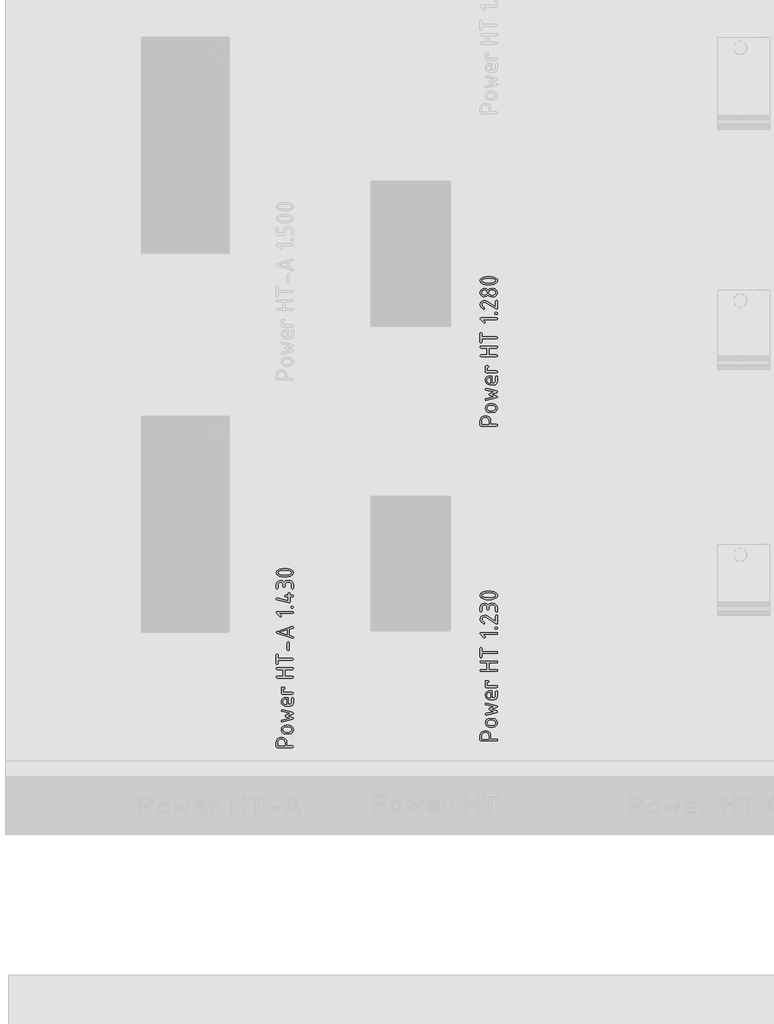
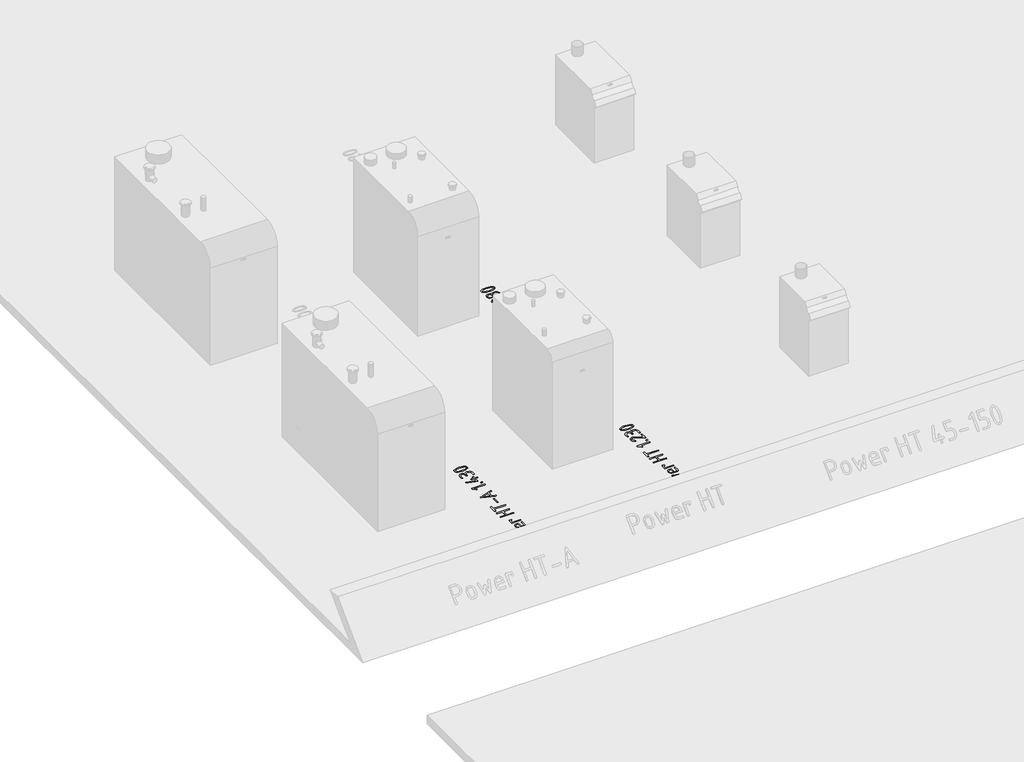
# One storey, part 14 of 37: 3 proxies.
"""IFC4 building model written with IfcOpenShell, lengths in millimetres."""

from ifc_helpers import new_model, si_unit, frame, origin, place, context, project, spatial, polyline, outline, extrude, element, save

model = new_model("IFC4")

# Units and contexts
model_context = context("Model", 3, world=origin())
ifc_project = project(units=[si_unit("LENGTHUNIT", "METRE", prefix="MILLI")], contexts=[model_context])

# Site, building, storey
site = spatial("IfcSite", under=ifc_project)
building = spatial("IfcBuilding", under=site)
storey = spatial("IfcBuildingStorey", under=building, Name="01_Стартовый вид_Площадка", Elevation=0.0)

# Proxies
placement = place(None, origin())
element("IfcBuildingElementProxy", 1, Name="150 мм", ObjectType="150 мм", at=placement, inside=storey, context=model_context, shape_type="SweptSolid", body=[
    extrude(outline(polyline([(1900.1180392, -4461.4879056), (1900.1180392, -4424.2130608), (1903.4739738, -4406.9589627), (1913.5417775, -4392.5114646), (1928.4037735, -4382.728316), (1946.1422848, -4379.4672665), (1964.6798282, -4382.5585217), (1979.3820177, -4391.8322874), (1988.9704022, -4406.0500637), (1992.1665304, -4423.9733512), (1992.1665304, -4453.61744), (2043.6241939, -4453.61744), (2049.137515, -4455.5351169), (2050.9752887, -4461.2881476), (2049.0875755, -4467.0411783), (2043.4244359, -4468.9588552), (1907.668892, -4468.9588552), (1902.0057524, -4467.0911178), (1900.1180392, -4461.4879056)]), holes=[polyline([(1915.4594544, -4453.61744), (1976.8251152, -4453.61744), (1976.8251152, -4424.2130608), (1974.6028073, -4412.8218603), (1967.9358837, -4403.3383487), (1958.0428683, -4396.9410985), (1946.1422848, -4394.8086817), (1934.2417013, -4396.9410985), (1924.3486859, -4403.3383487), (1917.6817623, -4412.8218603), (1915.4594544, -4424.2130608), (1915.4594544, -4453.61744)])]), frame((0.0, 0.0, -10.0), z_axis=(0.0, 0.0, 1.0), x_axis=(1.0, 0.0, 0.0)), (0.0, 0.0, 1.0), 10.0),
    extrude(outline(polyline([(2013.5406375, -4348.7844361), (1983.5769359, -4348.7844361), (1969.1843713, -4346.0727211), (1957.0890238, -4337.9375761), (1948.8789695, -4325.9570895), (1946.1422848, -4311.7093494), (1948.8490058, -4297.3117908), (1956.969169, -4285.3612678), (1969.0345528, -4277.3160139), (1983.5769359, -4274.6342627), (2013.5406375, -4274.6342627), (2027.9332022, -4277.3459777), (2040.0285497, -4285.4811226), (2048.2386039, -4297.4616093), (2050.9752887, -4311.7093494), (2048.2386039, -4325.9570895), (2040.0285497, -4337.9375761), (2027.9332022, -4346.0727211), (2013.5406375, -4348.7844361)]), holes=[polyline([(2013.1011699, -4289.9756779), (1983.0975167, -4289.9756779), (1974.4679707, -4291.568748), (1967.1967791, -4296.3479584), (1962.2527683, -4303.3744464), (1960.6047648, -4311.7093494), (1962.2527683, -4320.0442524), (1967.1967791, -4327.0707404), (1974.4679707, -4331.8499508), (1983.0975167, -4333.4430209), (2013.1011699, -4333.4430209), (2021.8106191, -4331.8649326), (2029.0818107, -4327.1306678), (2033.9958578, -4320.1191616), (2035.6338735, -4311.7093494), (2033.9858699, -4303.3744464), (2029.0418591, -4296.3479584), (2021.7606796, -4291.568748), (2013.1011699, -4289.9756779)])]), frame((0.0, 0.0, -10.0), z_axis=(0.0, 0.0, 1.0), x_axis=(1.0, 0.0, 0.0)), (0.0, 0.0, 1.0), 10.0),
    extrude(outline(polyline([(2050.9752887, -4169.281888), (2045.5418708, -4176.5530796), (2004.7912367, -4191.77464), (2045.3021612, -4207.0361519), (2050.9752887, -4214.3073435), (2049.2174182, -4219.1614632), (2043.9438067, -4221.8981479), (1955.4510081, -4244.0712871), (1953.2936216, -4244.3109967), (1947.930119, -4242.4332714), (1946.1422848, -4236.8000955), (1947.5605667, -4232.025879), (1951.8154123, -4229.5289039), (2018.1750233, -4212.9090375), (1980.9001786, -4198.9659283), (1976.0260832, -4191.77464), (1980.9001786, -4184.743158), (2018.2948782, -4170.7600973), (1951.8154123, -4154.0603276), (1947.5605667, -4151.5034251), (1946.1422848, -4146.789136), (1948.2397439, -4141.5554761), (1953.2936216, -4139.2782348), (1955.4510081, -4139.5179444), (2044.3832743, -4161.7709868), (2049.3272851, -4164.4477441), (2050.9752887, -4169.281888)])), frame((0.0, 0.0, -10.0), z_axis=(0.0, 0.0, 1.0), x_axis=(1.0, 0.0, 0.0)), (0.0, 0.0, 1.0), 10.0),
    extrude(outline(polyline([(2004.9510431, -4093.0941828), (2020.2924583, -4093.0941828), (2031.0993666, -4088.659555), (2035.6338735, -4078.112332), (2035.6338735, -4040.5977777), (2037.5515504, -4034.9646018), (2043.3045811, -4033.0868765), (2049.0576118, -4034.9646018), (2050.9752887, -4040.5977777), (2050.9752887, -4078.112332), (2048.8079142, -4089.7682119), (2042.305791, -4099.5663424), (2032.6474912, -4106.2182841), (2021.0115871, -4108.435598), (1983.5769359, -4108.435598), (1969.1843713, -4105.6539677), (1957.0890238, -4097.3090768), (1948.8789695, -4085.0689048), (1946.1422848, -4070.6014309), (1948.7990663, -4056.02409), (1956.769411, -4043.9337365), (1968.615061, -4035.7985915), (1982.8977587, -4033.0868765), (2004.9510431, -4033.0868765), (2004.9510431, -4093.0941828)]), holes=[polyline([(1959.6059747, -4070.6014309), (1961.2539783, -4079.2309769), (1966.197989, -4086.5021685), (1973.4691806, -4091.4461792), (1982.0987267, -4093.0941828), (1989.6096279, -4093.0941828), (1989.6096279, -4048.1086789), (1982.0987267, -4048.1086789), (1973.4691806, -4049.7566825), (1966.197989, -4054.7006932), (1961.2539783, -4061.9718848), (1959.6059747, -4070.6014309)])]), frame((0.0, 0.0, -10.0), z_axis=(0.0, 0.0, 1.0), x_axis=(1.0, 0.0, 0.0)), (0.0, 0.0, 1.0), 10.0),
    extrude(outline(polyline([(1953.6132344, -4003.6025942), (1948.0100222, -4001.6849173), (1946.1422848, -3995.9318866), (1946.1422848, -3950.7466246), (1948.0599617, -3945.1434124), (1953.8129924, -3943.275675), (1968.9946012, -3943.275675), (1974.6277771, -3945.1434124), (1976.5055024, -3950.7466246), (1974.6277771, -3956.3798005), (1968.9946012, -3958.2575258), (1961.4837, -3958.2575258), (1961.4837, -3988.261179), (2043.5043391, -3988.261179), (2049.1075513, -3990.1788559), (2050.9752887, -3995.9318866), (2049.1075513, -4001.6849173), (2043.5043391, -4003.6025942), (1953.6132344, -4003.6025942)])), frame((0.0, 0.0, -10.0), z_axis=(0.0, 0.0, 1.0), x_axis=(1.0, 0.0, 0.0)), (0.0, 0.0, 1.0), 10.0),
    extrude(outline(polyline([(2043.4244359, -3862.9729549), (1907.668892, -3862.9729549), (1902.0057524, -3861.055278), (1900.1180392, -3855.3022473), (1902.0357161, -3849.5492166), (1907.7887468, -3847.6315397), (1961.4837, -3847.6315397), (1961.4837, -3788.8227814), (1907.7887468, -3788.8227814), (1902.0357161, -3786.9051045), (1900.1180392, -3781.1520738), (1902.0057524, -3775.3990431), (1907.668892, -3773.4813662), (2043.4244359, -3773.4813662), (2049.0875755, -3775.3990431), (2050.9752887, -3781.1520738), (2049.1175392, -3786.9051045), (2043.5442907, -3788.8227814), (1976.8251152, -3788.8227814), (1976.8251152, -3847.6315397), (2043.5442907, -3847.6315397), (2049.1175392, -3849.5492166), (2050.9752887, -3855.3022473), (2049.0875755, -3861.055278), (2043.4244359, -3862.9729549)])), frame((0.0, 0.0, -10.0), z_axis=(0.0, 0.0, 1.0), x_axis=(1.0, 0.0, 0.0)), (0.0, 0.0, 1.0), 10.0),
    extrude(outline(polyline([(1907.7887468, -3744.5164547), (1902.0357161, -3742.6387294), (1900.1180392, -3737.0055535), (1900.1180392, -3661.656832), (1902.0357161, -3656.0536198), (1907.7887468, -3654.1858824), (1913.5417775, -3656.0536198), (1915.4594544, -3661.656832), (1915.4594544, -3691.6604852), (2043.4643875, -3691.6604852), (2049.0975634, -3693.5781621), (2050.9752887, -3699.3311928), (2049.0975634, -3705.0842235), (2043.4643875, -3707.0019004), (1915.4594544, -3707.0019004), (1915.4594544, -3737.0055535), (1913.5417775, -3742.6387294), (1907.7887468, -3744.5164547)])), frame((0.0, 0.0, -10.0), z_axis=(0.0, 0.0, 1.0), x_axis=(1.0, 0.0, 0.0)), (0.0, 0.0, 1.0), 10.0),
    extrude(outline(polyline([(1925.8468709, -3540.8032357), (1943.1459146, -3558.0623278), (1945.3033012, -3563.2959877), (1943.4255759, -3568.9291636), (1937.7924, -3570.8068889), (1932.5587401, -3568.6095508), (1903.0744578, -3539.2850748), (1900.1180392, -3533.1325281), (1902.0057524, -3527.3794974), (1907.668892, -3525.4618205), (2043.4244359, -3525.4618205), (2049.0875755, -3527.3794974), (2050.9752887, -3533.1325281), (2049.0875755, -3538.8855588), (2043.4244359, -3540.8032357), (1925.8468709, -3540.8032357)])), frame((0.0, 0.0, -10.0), z_axis=(0.0, 0.0, 1.0), x_axis=(1.0, 0.0, 0.0)), (0.0, 0.0, 1.0), 10.0),
    extrude(outline(polyline([(2035.6338735, -3494.7789901), (2029.8808428, -3492.8613132), (2027.9631659, -3487.1082825), (2029.8808428, -3481.3552518), (2035.6338735, -3479.4375749), (2043.3045811, -3479.4375749), (2049.0576118, -3481.3552518), (2050.9752887, -3487.1082825), (2049.0576118, -3492.8613132), (2043.3045811, -3494.7789901), (2035.6338735, -3494.7789901)])), frame((0.0, 0.0, -10.0), z_axis=(0.0, 0.0, 1.0), x_axis=(1.0, 0.0, 0.0)), (0.0, 0.0, 1.0), 10.0),
    extrude(outline(polyline([(1900.1180392, -3411.5997546), (1902.8697058, -3397.1722323), (1911.1247056, -3385.051915), (1923.2849745, -3376.8268789), (1937.7524484, -3374.0852002), (1948.5493688, -3375.7931312), (1959.4461683, -3380.9169242), (2035.6338735, -3428.1796695), (2035.6338735, -3381.5961014), (2037.5515504, -3375.9629255), (2043.3045811, -3374.0852002), (2049.0576118, -3375.9629255), (2050.9752887, -3381.5961014), (2050.9752887, -3441.6034078), (2049.0975634, -3447.2365836), (2043.4643875, -3449.1143089), (2039.1096628, -3447.8358577), (1950.4970094, -3392.8624532), (1938.0321096, -3389.1070026), (1929.3676059, -3390.7550062), (1922.0714446, -3395.699017), (1917.1124519, -3402.9702085), (1915.4594544, -3411.5997546), (1920.1737435, -3423.8349327), (1934.3166106, -3435.1312482), (1937.9522064, -3441.6034078), (1936.0744811, -3447.2365836), (1930.4413052, -3449.1143089), (1927.3650318, -3448.3951801), (1906.9297874, -3432.2247692), (1901.8209762, -3422.4690873), (1900.1180392, -3411.5997546)])), frame((0.0, 0.0, -10.0), z_axis=(0.0, 0.0, 1.0), x_axis=(1.0, 0.0, 0.0)), (0.0, 0.0, 1.0), 10.0),
    extrude(outline(polyline([(1976.8251152, -3307.6057344), (1976.8251152, -3322.5875852), (1974.9074383, -3328.2207611), (1969.1544076, -3330.0984864), (1963.4013769, -3328.2207611), (1961.4837, -3322.5875852), (1961.4837, -3307.6057344), (1959.8107267, -3298.9012791), (1954.7918067, -3291.6450694), (1947.3658026, -3286.7460042), (1938.4715772, -3285.1129824), (1929.6272913, -3286.760986), (1922.1912994, -3291.7049968), (1917.1424156, -3298.9761883), (1915.4594544, -3307.6057344), (1915.4594544, -3337.6093875), (1913.5417775, -3343.2425634), (1907.7887468, -3345.1202887), (1902.0357161, -3343.2425634), (1900.1180392, -3337.6093875), (1900.1180392, -3307.6057344), (1902.9346272, -3293.1382605), (1911.384391, -3280.8980884), (1923.7893634, -3272.5531975), (1938.4715772, -3269.7715672), (1955.6707419, -3273.5270178), (1969.1544076, -3284.7933696), (1982.2285694, -3273.5270178), (1998.9183511, -3269.7715672), (2013.7803471, -3269.7715672), (2028.0930086, -3272.5681794), (2040.1084529, -3280.9580158), (2048.2585797, -3293.2131697), (2050.9752887, -3307.6057344), (2050.9752887, -3337.6093875), (2049.0576118, -3343.2425634), (2043.3045811, -3345.1202887), (2037.5515504, -3343.2425634), (2035.6338735, -3337.6093875), (2035.6338735, -3307.6057344), (2034.0308154, -3298.9012791), (2029.2216413, -3291.6450694), (2022.1052622, -3286.7460042), (2013.5805891, -3285.1129824), (1998.8783995, -3285.1129824), (1990.403666, -3286.760986), (1983.2772989, -3291.7049968), (1978.4381611, -3298.9761883), (1976.8251152, -3307.6057344)])), frame((0.0, 0.0, -10.0), z_axis=(0.0, 0.0, 1.0), x_axis=(1.0, 0.0, 0.0)), (0.0, 0.0, 1.0), 10.0),
    extrude(outline(polyline([(1975.5466639, -3164.9385634), (2000.6862095, -3166.5665912), (2022.1701836, -3171.4506745), (2043.7740124, -3183.8656349), (2049.1749696, -3192.2230106), (2050.9752887, -3202.0136501), (2049.1824605, -3211.8042896), (2043.8039761, -3220.1616653), (2022.2900384, -3232.5766257), (2000.7761006, -3237.460709), (1975.5466639, -3239.0887368), (1950.3172272, -3237.460709), (1928.8032895, -3232.5766257), (1907.2893518, -3220.1616653), (1901.9108674, -3211.8042896), (1900.1180392, -3202.0136501), (1901.9183583, -3192.2230106), (1907.3193155, -3183.8656349), (1928.9231443, -3171.4506745), (1950.4071183, -3166.5665912), (1975.5466639, -3164.9385634)]), holes=[polyline([(1975.5466639, -3180.2799786), (1940.3892541, -3184.1153324), (1921.6919043, -3191.5063788), (1915.4594544, -3202.0136501), (1921.721868, -3212.4310303), (1940.5091089, -3219.792113), (1975.5466639, -3223.7473216), (2010.7040738, -3219.9119678), (2029.4014235, -3212.5209214), (2035.6338735, -3202.0136501), (2029.4014235, -3191.5063788), (2010.7040738, -3184.1153324), (1975.5466639, -3180.2799786)])]), frame((0.0, 0.0, -10.0), z_axis=(0.0, 0.0, 1.0), x_axis=(1.0, 0.0, 0.0)), (0.0, 0.0, 1.0), 10.0),
])
element("IfcBuildingElementProxy", 2, Name="150 мм", ObjectType="150 мм", at=placement, inside=storey, context=model_context, shape_type="SweptSolid", body=[
    extrude(outline(polyline([(1900.1180392, -1721.4879056), (1900.1180392, -1684.2130608), (1903.4739738, -1666.9589627), (1913.5417775, -1652.5114646), (1928.4037735, -1642.728316), (1946.1422848, -1639.4672665), (1964.6798282, -1642.5585217), (1979.3820177, -1651.8322874), (1988.9704022, -1666.0500637), (1992.1665304, -1683.9733512), (1992.1665304, -1713.61744), (2043.6241939, -1713.61744), (2049.137515, -1715.5351169), (2050.9752887, -1721.2881476), (2049.0875755, -1727.0411783), (2043.4244359, -1728.9588552), (1907.668892, -1728.9588552), (1902.0057524, -1727.0911178), (1900.1180392, -1721.4879056)]), holes=[polyline([(1915.4594544, -1713.61744), (1976.8251152, -1713.61744), (1976.8251152, -1684.2130608), (1974.6028073, -1672.8218603), (1967.9358837, -1663.3383487), (1958.0428683, -1656.9410985), (1946.1422848, -1654.8086817), (1934.2417013, -1656.9410985), (1924.3486859, -1663.3383487), (1917.6817623, -1672.8218603), (1915.4594544, -1684.2130608), (1915.4594544, -1713.61744)])]), frame((0.0, 0.0, -10.0), z_axis=(0.0, 0.0, 1.0), x_axis=(1.0, 0.0, 0.0)), (0.0, 0.0, 1.0), 10.0),
    extrude(outline(polyline([(2013.5406375, -1608.7844361), (1983.5769359, -1608.7844361), (1969.1843713, -1606.0727211), (1957.0890238, -1597.9375761), (1948.8789695, -1585.9570895), (1946.1422848, -1571.7093494), (1948.8490058, -1557.3117908), (1956.969169, -1545.3612678), (1969.0345528, -1537.3160139), (1983.5769359, -1534.6342627), (2013.5406375, -1534.6342627), (2027.9332022, -1537.3459777), (2040.0285497, -1545.4811226), (2048.2386039, -1557.4616093), (2050.9752887, -1571.7093494), (2048.2386039, -1585.9570895), (2040.0285497, -1597.9375761), (2027.9332022, -1606.0727211), (2013.5406375, -1608.7844361)]), holes=[polyline([(2013.1011699, -1549.9756779), (1983.0975167, -1549.9756779), (1974.4679707, -1551.568748), (1967.1967791, -1556.3479584), (1962.2527683, -1563.3744464), (1960.6047648, -1571.7093494), (1962.2527683, -1580.0442524), (1967.1967791, -1587.0707404), (1974.4679707, -1591.8499508), (1983.0975167, -1593.4430209), (2013.1011699, -1593.4430209), (2021.8106191, -1591.8649326), (2029.0818107, -1587.1306678), (2033.9958578, -1580.1191616), (2035.6338735, -1571.7093494), (2033.9858699, -1563.3744464), (2029.0418591, -1556.3479584), (2021.7606796, -1551.568748), (2013.1011699, -1549.9756779)])]), frame((0.0, 0.0, -10.0), z_axis=(0.0, 0.0, 1.0), x_axis=(1.0, 0.0, 0.0)), (0.0, 0.0, 1.0), 10.0),
    extrude(outline(polyline([(2050.9752887, -1429.281888), (2045.5418708, -1436.5530796), (2004.7912367, -1451.77464), (2045.3021612, -1467.0361519), (2050.9752887, -1474.3073435), (2049.2174182, -1479.1614632), (2043.9438067, -1481.8981479), (1955.4510081, -1504.0712871), (1953.2936216, -1504.3109967), (1947.930119, -1502.4332714), (1946.1422848, -1496.8000955), (1947.5605667, -1492.025879), (1951.8154123, -1489.5289039), (2018.1750233, -1472.9090375), (1980.9001786, -1458.9659283), (1976.0260832, -1451.77464), (1980.9001786, -1444.743158), (2018.2948782, -1430.7600973), (1951.8154123, -1414.0603276), (1947.5605667, -1411.5034251), (1946.1422848, -1406.789136), (1948.2397439, -1401.5554761), (1953.2936216, -1399.2782348), (1955.4510081, -1399.5179444), (2044.3832743, -1421.7709868), (2049.3272851, -1424.4477441), (2050.9752887, -1429.281888)])), frame((0.0, 0.0, -10.0), z_axis=(0.0, 0.0, 1.0), x_axis=(1.0, 0.0, 0.0)), (0.0, 0.0, 1.0), 10.0),
    extrude(outline(polyline([(2004.9510431, -1353.0941828), (2020.2924583, -1353.0941828), (2031.0993666, -1348.659555), (2035.6338735, -1338.112332), (2035.6338735, -1300.5977777), (2037.5515504, -1294.9646018), (2043.3045811, -1293.0868765), (2049.0576118, -1294.9646018), (2050.9752887, -1300.5977777), (2050.9752887, -1338.112332), (2048.8079142, -1349.7682119), (2042.305791, -1359.5663424), (2032.6474912, -1366.2182841), (2021.0115871, -1368.435598), (1983.5769359, -1368.435598), (1969.1843713, -1365.6539677), (1957.0890238, -1357.3090768), (1948.8789695, -1345.0689048), (1946.1422848, -1330.6014309), (1948.7990663, -1316.02409), (1956.769411, -1303.9337365), (1968.615061, -1295.7985915), (1982.8977587, -1293.0868765), (2004.9510431, -1293.0868765), (2004.9510431, -1353.0941828)]), holes=[polyline([(1959.6059747, -1330.6014309), (1961.2539783, -1339.2309769), (1966.197989, -1346.5021685), (1973.4691806, -1351.4461792), (1982.0987267, -1353.0941828), (1989.6096279, -1353.0941828), (1989.6096279, -1308.1086789), (1982.0987267, -1308.1086789), (1973.4691806, -1309.7566825), (1966.197989, -1314.7006932), (1961.2539783, -1321.9718848), (1959.6059747, -1330.6014309)])]), frame((0.0, 0.0, -10.0), z_axis=(0.0, 0.0, 1.0), x_axis=(1.0, 0.0, 0.0)), (0.0, 0.0, 1.0), 10.0),
    extrude(outline(polyline([(1953.6132344, -1263.6025942), (1948.0100222, -1261.6849173), (1946.1422848, -1255.9318866), (1946.1422848, -1210.7466246), (1948.0599617, -1205.1434124), (1953.8129924, -1203.275675), (1968.9946012, -1203.275675), (1974.6277771, -1205.1434124), (1976.5055024, -1210.7466246), (1974.6277771, -1216.3798005), (1968.9946012, -1218.2575258), (1961.4837, -1218.2575258), (1961.4837, -1248.261179), (2043.5043391, -1248.261179), (2049.1075513, -1250.1788559), (2050.9752887, -1255.9318866), (2049.1075513, -1261.6849173), (2043.5043391, -1263.6025942), (1953.6132344, -1263.6025942)])), frame((0.0, 0.0, -10.0), z_axis=(0.0, 0.0, 1.0), x_axis=(1.0, 0.0, 0.0)), (0.0, 0.0, 1.0), 10.0),
    extrude(outline(polyline([(2043.4244359, -1122.9729549), (1907.668892, -1122.9729549), (1902.0057524, -1121.055278), (1900.1180392, -1115.3022473), (1902.0357161, -1109.5492166), (1907.7887468, -1107.6315397), (1961.4837, -1107.6315397), (1961.4837, -1048.8227814), (1907.7887468, -1048.8227814), (1902.0357161, -1046.9051045), (1900.1180392, -1041.1520738), (1902.0057524, -1035.3990431), (1907.668892, -1033.4813662), (2043.4244359, -1033.4813662), (2049.0875755, -1035.3990431), (2050.9752887, -1041.1520738), (2049.1175392, -1046.9051045), (2043.5442907, -1048.8227814), (1976.8251152, -1048.8227814), (1976.8251152, -1107.6315397), (2043.5442907, -1107.6315397), (2049.1175392, -1109.5492166), (2050.9752887, -1115.3022473), (2049.0875755, -1121.055278), (2043.4244359, -1122.9729549)])), frame((0.0, 0.0, -10.0), z_axis=(0.0, 0.0, 1.0), x_axis=(1.0, 0.0, 0.0)), (0.0, 0.0, 1.0), 10.0),
    extrude(outline(polyline([(1907.7887468, -1004.5164547), (1902.0357161, -1002.6387294), (1900.1180392, -997.0055535), (1900.1180392, -921.656832), (1902.0357161, -916.0536198), (1907.7887468, -914.1858824), (1913.5417775, -916.0536198), (1915.4594544, -921.656832), (1915.4594544, -951.6604852), (2043.4643875, -951.6604852), (2049.0975634, -953.5781621), (2050.9752887, -959.3311928), (2049.0975634, -965.0842235), (2043.4643875, -967.0019004), (1915.4594544, -967.0019004), (1915.4594544, -997.0055535), (1913.5417775, -1002.6387294), (1907.7887468, -1004.5164547)])), frame((0.0, 0.0, -10.0), z_axis=(0.0, 0.0, 1.0), x_axis=(1.0, 0.0, 0.0)), (0.0, 0.0, 1.0), 10.0),
    extrude(outline(polyline([(1925.8468709, -800.8032357), (1943.1459146, -818.0623278), (1945.3033012, -823.2959877), (1943.4255759, -828.9291636), (1937.7924, -830.8068889), (1932.5587401, -828.6095508), (1903.0744578, -799.2850748), (1900.1180392, -793.1325281), (1902.0057524, -787.3794974), (1907.668892, -785.4618205), (2043.4244359, -785.4618205), (2049.0875755, -787.3794974), (2050.9752887, -793.1325281), (2049.0875755, -798.8855588), (2043.4244359, -800.8032357), (1925.8468709, -800.8032357)])), frame((0.0, 0.0, -10.0), z_axis=(0.0, 0.0, 1.0), x_axis=(1.0, 0.0, 0.0)), (0.0, 0.0, 1.0), 10.0),
    extrude(outline(polyline([(2035.6338735, -754.7789901), (2029.8808428, -752.8613132), (2027.9631659, -747.1082825), (2029.8808428, -741.3552518), (2035.6338735, -739.4375749), (2043.3045811, -739.4375749), (2049.0576118, -741.3552518), (2050.9752887, -747.1082825), (2049.0576118, -752.8613132), (2043.3045811, -754.7789901), (2035.6338735, -754.7789901)])), frame((0.0, 0.0, -10.0), z_axis=(0.0, 0.0, 1.0), x_axis=(1.0, 0.0, 0.0)), (0.0, 0.0, 1.0), 10.0),
    extrude(outline(polyline([(1900.1180392, -671.5997546), (1902.8697058, -657.1722323), (1911.1247056, -645.051915), (1923.2849745, -636.8268789), (1937.7524484, -634.0852002), (1948.5493688, -635.7931312), (1959.4461683, -640.9169242), (2035.6338735, -688.1796695), (2035.6338735, -641.5961014), (2037.5515504, -635.9629255), (2043.3045811, -634.0852002), (2049.0576118, -635.9629255), (2050.9752887, -641.5961014), (2050.9752887, -701.6034078), (2049.0975634, -707.2365836), (2043.4643875, -709.1143089), (2039.1096628, -707.8358577), (1950.4970094, -652.8624532), (1938.0321096, -649.1070026), (1929.3676059, -650.7550062), (1922.0714446, -655.699017), (1917.1124519, -662.9702085), (1915.4594544, -671.5997546), (1920.1737435, -683.8349327), (1934.3166106, -695.1312482), (1937.9522064, -701.6034078), (1936.0744811, -707.2365836), (1930.4413052, -709.1143089), (1927.3650318, -708.3951801), (1906.9297874, -692.2247692), (1901.8209762, -682.4690873), (1900.1180392, -671.5997546)])), frame((0.0, 0.0, -10.0), z_axis=(0.0, 0.0, 1.0), x_axis=(1.0, 0.0, 0.0)), (0.0, 0.0, 1.0), 10.0),
    extrude(outline(polyline([(2050.9752887, -566.8466539), (2048.2186281, -581.094394), (2039.9486465, -593.0748807), (2027.7634078, -601.2100257), (2013.2609763, -603.9217407), (1998.1592707, -603.9217407), (1981.2497551, -600.0863869), (1967.9958111, -588.5803255), (1954.7418672, -600.0863869), (1937.8323516, -603.9217407), (1923.32992, -601.2100257), (1911.1446814, -593.0748807), (1902.8746998, -581.094394), (1900.1180392, -566.8466539), (1902.8746998, -552.5989139), (1911.1446814, -540.6184272), (1923.32992, -532.4832822), (1937.8323516, -529.7715672), (1954.7418672, -533.606921), (1967.9958111, -545.1129824), (1977.1746917, -536.8629766), (1988.2512734, -532.3284698), (2013.2609763, -529.7715672), (2027.7634078, -532.4832822), (2039.9486465, -540.6184272), (2048.2186281, -552.5989139), (2050.9752887, -566.8466539)]), holes=[polyline([(1960.9643292, -566.8466539), (1959.3313074, -558.4368417), (1954.4322422, -551.4253355), (1947.1760325, -546.6910707), (1938.4715772, -545.1129824), (1929.8420312, -546.7060526), (1922.5708396, -551.4852629), (1917.6268288, -558.511751), (1915.9788252, -566.8466539), (1917.611847, -575.2564662), (1922.5109122, -582.2679724), (1929.7671219, -587.0022372), (1938.4715772, -588.5803255), (1947.1760325, -587.0022372), (1954.4322422, -582.2679724), (1959.3313074, -575.2564662), (1960.9643292, -566.8466539)]), polyline([(2035.6338735, -566.8466539), (2033.9958578, -558.4368417), (2029.0818107, -551.4253355), (2021.8106191, -546.6910707), (2013.1011699, -545.1129824), (1998.1193191, -545.1129824), (1989.4897731, -546.7060526), (1982.2185815, -551.4852629), (1977.2745707, -558.511751), (1975.6265671, -566.8466539), (1977.2595889, -575.2564662), (1982.1586541, -582.2679724), (1989.4148638, -587.0022372), (1998.1193191, -588.5803255), (2013.1011699, -588.5803255), (2021.8106191, -587.0022372), (2029.0818107, -582.2679724), (2033.9958578, -575.2564662), (2035.6338735, -566.8466539)])]), frame((0.0, 0.0, -10.0), z_axis=(0.0, 0.0, 1.0), x_axis=(1.0, 0.0, 0.0)), (0.0, 0.0, 1.0), 10.0),
    extrude(outline(polyline([(1975.5466639, -424.9385634), (2000.6862095, -426.5665912), (2022.1701836, -431.4506745), (2043.7740124, -443.8656349), (2049.1749696, -452.2230106), (2050.9752887, -462.0136501), (2049.1824605, -471.8042896), (2043.8039761, -480.1616653), (2022.2900384, -492.5766257), (2000.7761006, -497.460709), (1975.5466639, -499.0887368), (1950.3172272, -497.460709), (1928.8032895, -492.5766257), (1907.2893518, -480.1616653), (1901.9108674, -471.8042896), (1900.1180392, -462.0136501), (1901.9183583, -452.2230106), (1907.3193155, -443.8656349), (1928.9231443, -431.4506745), (1950.4071183, -426.5665912), (1975.5466639, -424.9385634)]), holes=[polyline([(1975.5466639, -440.2799786), (1940.3892541, -444.1153324), (1921.6919043, -451.5063788), (1915.4594544, -462.0136501), (1921.721868, -472.4310303), (1940.5091089, -479.792113), (1975.5466639, -483.7473216), (2010.7040738, -479.9119678), (2029.4014235, -472.5209214), (2035.6338735, -462.0136501), (2029.4014235, -451.5063788), (2010.7040738, -444.1153324), (1975.5466639, -440.2799786)])]), frame((0.0, 0.0, -10.0), z_axis=(0.0, 0.0, 1.0), x_axis=(1.0, 0.0, 0.0)), (0.0, 0.0, 1.0), 10.0),
])
element("IfcBuildingElementProxy", 3, Name="150 мм", ObjectType="150 мм", at=placement, inside=storey, context=model_context, shape_type="SweptSolid", body=[
    extrude(outline(polyline([(124.0044159, -4519.4896419), (124.0044159, -4482.2147972), (127.3603504, -4464.960699), (137.4281542, -4450.5132009), (152.2901501, -4440.7300524), (170.0286615, -4437.4690028), (188.5662048, -4440.5602581), (203.2683944, -4449.8340237), (212.8567789, -4464.0518001), (216.052907, -4481.9750876), (216.052907, -4511.6191763), (267.5105705, -4511.6191763), (273.0238916, -4513.5368532), (274.8616653, -4519.2898839), (272.9739521, -4525.0429146), (267.3108125, -4526.9605915), (131.5552687, -4526.9605915), (125.8921291, -4525.0928541), (124.0044159, -4519.4896419)]), holes=[polyline([(139.3458311, -4511.6191763), (200.7114919, -4511.6191763), (200.7114919, -4482.2147972), (198.489184, -4470.8235966), (191.8222604, -4461.3400851), (181.9292449, -4454.9428348), (170.0286615, -4452.810418), (158.128078, -4454.9428348), (148.2350625, -4461.3400851), (141.5681389, -4470.8235966), (139.3458311, -4482.2147972), (139.3458311, -4511.6191763)])]), frame((0.0, 0.0, -10.0), z_axis=(0.0, 0.0, 1.0), x_axis=(1.0, 0.0, 0.0)), (0.0, 0.0, 1.0), 10.0),
    extrude(outline(polyline([(237.4270142, -4406.7861724), (207.4633126, -4406.7861724), (193.070748, -4404.0744575), (180.9754004, -4395.9393125), (172.7653462, -4383.9588258), (170.0286615, -4369.7110857), (172.7353825, -4355.3135271), (180.8555456, -4343.3630042), (192.9209294, -4335.3177503), (207.4633126, -4332.635999), (237.4270142, -4332.635999), (251.8195788, -4335.347714), (263.9149263, -4343.482859), (272.1249806, -4355.4633456), (274.8616653, -4369.7110857), (272.1249806, -4383.9588258), (263.9149263, -4395.9393125), (251.8195788, -4404.0744575), (237.4270142, -4406.7861724)]), holes=[polyline([(236.9875465, -4347.9774142), (206.9838934, -4347.9774142), (198.3543473, -4349.5704843), (191.0831558, -4354.3496947), (186.139145, -4361.3761827), (184.4911414, -4369.7110857), (186.139145, -4378.0459887), (191.0831558, -4385.0724767), (198.3543473, -4389.8516871), (206.9838934, -4391.4447573), (236.9875465, -4391.4447573), (245.6969958, -4389.866669), (252.9681874, -4385.1324041), (257.8822344, -4378.120898), (259.5202501, -4369.7110857), (257.8722465, -4361.3761827), (252.9282358, -4354.3496947), (245.6470563, -4349.5704843), (236.9875465, -4347.9774142)])]), frame((0.0, 0.0, -10.0), z_axis=(0.0, 0.0, 1.0), x_axis=(1.0, 0.0, 0.0)), (0.0, 0.0, 1.0), 10.0),
    extrude(outline(polyline([(274.8616653, -4227.2836243), (269.4282474, -4234.5548159), (228.6776133, -4249.7763763), (269.1885378, -4265.0378883), (274.8616653, -4272.3090799), (273.1037948, -4277.1631995), (267.8301833, -4279.8998843), (179.3373847, -4302.0730234), (177.1799982, -4302.312733), (171.8164956, -4300.4350077), (170.0286615, -4294.8018318), (171.4469433, -4290.0276154), (175.701789, -4287.5306402), (242.0614, -4270.9107738), (204.7865553, -4256.9676647), (199.9124598, -4249.7763763), (204.7865553, -4242.7448943), (242.1812548, -4228.7618336), (175.701789, -4212.0620639), (171.4469433, -4209.5051614), (170.0286615, -4204.7908723), (172.1261206, -4199.5572125), (177.1799982, -4197.2799712), (179.3373847, -4197.5196808), (268.269651, -4219.7727231), (273.2136617, -4222.4494805), (274.8616653, -4227.2836243)])), frame((0.0, 0.0, -10.0), z_axis=(0.0, 0.0, 1.0), x_axis=(1.0, 0.0, 0.0)), (0.0, 0.0, 1.0), 10.0),
    extrude(outline(polyline([(228.8374197, -4151.0959192), (244.1788349, -4151.0959192), (254.9857433, -4146.6612913), (259.5202501, -4136.1140684), (259.5202501, -4098.599514), (261.437927, -4092.9663381), (267.1909577, -4091.0886128), (272.9439884, -4092.9663381), (274.8616653, -4098.599514), (274.8616653, -4136.1140684), (272.6942909, -4147.7699483), (266.1921677, -4157.5680787), (256.5338679, -4164.2200204), (244.8979637, -4166.4373344), (207.4633126, -4166.4373344), (193.070748, -4163.6557041), (180.9754004, -4155.3108132), (172.7653462, -4143.0706411), (170.0286615, -4128.6031672), (172.685443, -4114.0258264), (180.6557876, -4101.9354728), (192.5014376, -4093.8003278), (206.7841354, -4091.0886128), (228.8374197, -4091.0886128), (228.8374197, -4151.0959192)]), holes=[polyline([(183.4923514, -4128.6031672), (185.1403549, -4137.2327132), (190.0843657, -4144.5039048), (197.3555573, -4149.4479156), (205.9851033, -4151.0959192), (213.4960045, -4151.0959192), (213.4960045, -4106.1104152), (205.9851033, -4106.1104152), (197.3555573, -4107.7584188), (190.0843657, -4112.7024296), (185.1403549, -4119.9736211), (183.4923514, -4128.6031672)])]), frame((0.0, 0.0, -10.0), z_axis=(0.0, 0.0, 1.0), x_axis=(1.0, 0.0, 0.0)), (0.0, 0.0, 1.0), 10.0),
    extrude(outline(polyline([(177.499611, -4061.6043305), (171.8963989, -4059.6866536), (170.0286615, -4053.9336229), (170.0286615, -4008.748361), (171.9463384, -4003.1451488), (177.6993691, -4001.2774114), (192.8809778, -4001.2774114), (198.5141537, -4003.1451488), (200.391879, -4008.748361), (198.5141537, -4014.3815368), (192.8809778, -4016.2592621), (185.3700767, -4016.2592621), (185.3700767, -4046.2629153), (267.3907157, -4046.2629153), (272.9939279, -4048.1805922), (274.8616653, -4053.9336229), (272.9939279, -4059.6866536), (267.3907157, -4061.6043305), (177.499611, -4061.6043305)])), frame((0.0, 0.0, -10.0), z_axis=(0.0, 0.0, 1.0), x_axis=(1.0, 0.0, 0.0)), (0.0, 0.0, 1.0), 10.0),
    extrude(outline(polyline([(267.3108125, -3920.9746912), (131.5552687, -3920.9746912), (125.8921291, -3919.0570143), (124.0044159, -3913.3039836), (125.9220928, -3907.5509529), (131.6751235, -3905.633276), (185.3700767, -3905.633276), (185.3700767, -3846.8245177), (131.6751235, -3846.8245177), (125.9220928, -3844.9068408), (124.0044159, -3839.1538101), (125.8921291, -3833.4007794), (131.5552687, -3831.4831025), (267.3108125, -3831.4831025), (272.9739521, -3833.4007794), (274.8616653, -3839.1538101), (273.0039158, -3844.9068408), (267.4306673, -3846.8245177), (200.7114919, -3846.8245177), (200.7114919, -3905.633276), (267.4306673, -3905.633276), (273.0039158, -3907.5509529), (274.8616653, -3913.3039836), (272.9739521, -3919.0570143), (267.3108125, -3920.9746912)])), frame((0.0, 0.0, -10.0), z_axis=(0.0, 0.0, 1.0), x_axis=(1.0, 0.0, 0.0)), (0.0, 0.0, 1.0), 10.0),
    extrude(outline(polyline([(131.6751235, -3802.518191), (125.9220928, -3800.6404657), (124.0044159, -3795.0072898), (124.0044159, -3719.6585683), (125.9220928, -3714.0553561), (131.6751235, -3712.1876187), (137.4281542, -3714.0553561), (139.3458311, -3719.6585683), (139.3458311, -3749.6622215), (267.3507641, -3749.6622215), (272.98394, -3751.5798984), (274.8616653, -3757.3329291), (272.98394, -3763.0859598), (267.3507641, -3765.0036367), (139.3458311, -3765.0036367), (139.3458311, -3795.0072898), (137.4281542, -3800.6404657), (131.6751235, -3802.518191)])), frame((0.0, 0.0, -10.0), z_axis=(0.0, 0.0, 1.0), x_axis=(1.0, 0.0, 0.0)), (0.0, 0.0, 1.0), 10.0),
    extrude(outline(polyline([(236.5081273, -3613.46721), (236.5081273, -3673.4745163), (234.5904504, -3679.1076922), (228.8374197, -3680.9854175), (223.084389, -3679.1076922), (221.1667121, -3673.4745163), (221.1667121, -3613.46721), (223.084389, -3607.8340341), (228.8374197, -3605.9563088), (234.5904504, -3607.8340341), (236.5081273, -3613.46721)])), frame((0.0, 0.0, -10.0), z_axis=(0.0, 0.0, 1.0), x_axis=(1.0, 0.0, 0.0)), (0.0, 0.0, 1.0), 10.0),
    extrude(outline(polyline([(267.3108125, -3471.1196518), (272.9739521, -3472.9973771), (274.8616653, -3478.630553), (273.5532503, -3483.1550719), (269.6280054, -3485.7818898), (236.5081273, -3496.5688223), (236.5081273, -3550.6632915), (269.6280054, -3561.4901757), (273.5532503, -3564.1169935), (274.8616653, -3568.6415125), (272.9739521, -3574.2746884), (267.3108125, -3576.1524137), (264.9137164, -3575.7928492), (130.0770594, -3531.1269581), (125.5225767, -3528.230467), (124.0044159, -3523.6160569), (125.4626493, -3519.0615743), (129.8373498, -3516.2649622), (264.9137164, -3471.4792162), (267.3108125, -3471.1196518)]), holes=[polyline([(155.0068591, -3523.6160569), (221.1667121, -3545.6693413), (221.1667121, -3501.6027242), (155.0068591, -3523.6160569)])]), frame((0.0, 0.0, -10.0), z_axis=(0.0, 0.0, 1.0), x_axis=(1.0, 0.0, 0.0)), (0.0, 0.0, 1.0), 10.0),
    extrude(outline(polyline([(149.7332476, -3358.456134), (167.0322913, -3375.715226), (169.1896778, -3380.9488859), (167.3119525, -3386.5820618), (161.6787766, -3388.4597871), (156.4451167, -3386.262449), (126.9608344, -3356.9379731), (124.0044159, -3350.7854264), (125.8921291, -3345.0323957), (131.5552687, -3343.1147188), (267.3108125, -3343.1147188), (272.9739521, -3345.0323957), (274.8616653, -3350.7854264), (272.9739521, -3356.5384571), (267.3108125, -3358.456134), (149.7332476, -3358.456134)])), frame((0.0, 0.0, -10.0), z_axis=(0.0, 0.0, 1.0), x_axis=(1.0, 0.0, 0.0)), (0.0, 0.0, 1.0), 10.0),
    extrude(outline(polyline([(259.5202501, -3312.4318884), (253.7672194, -3310.5142115), (251.8495425, -3304.7611808), (253.7672194, -3299.0081501), (259.5202501, -3297.0904732), (267.1909577, -3297.0904732), (272.9439884, -3299.0081501), (274.8616653, -3304.7611808), (272.9439884, -3310.5142115), (267.1909577, -3312.4318884), (259.5202501, -3312.4318884)])), frame((0.0, 0.0, -10.0), z_axis=(0.0, 0.0, 1.0), x_axis=(1.0, 0.0, 0.0)), (0.0, 0.0, 1.0), 10.0),
    extrude(outline(polyline([(236.6679337, -3267.8059488), (234.630402, -3267.5662392), (129.4777853, -3237.5625861), (125.3727582, -3234.9457561), (124.0044159, -3230.2913945), (125.8721533, -3224.6582186), (131.4753655, -3222.7804933), (133.632752, -3223.1400577), (228.8374197, -3250.3870503), (228.8374197, -3215.2695921), (206.3047161, -3215.2695921), (200.701504, -3213.3519152), (198.8337666, -3207.5988845), (200.701504, -3201.8458538), (206.3047161, -3199.9281769), (228.8374197, -3199.9281769), (228.8374197, -3184.9063745), (230.7550966, -3179.3031623), (236.5081273, -3177.4354249), (242.261158, -3179.3031623), (244.1788349, -3184.9063745), (244.1788349, -3199.9281769), (267.1909577, -3199.9281769), (272.9439884, -3201.8458538), (274.8616653, -3207.5988845), (272.9439884, -3213.3519152), (267.1909577, -3215.2695921), (244.1788349, -3215.2695921), (244.1788349, -3260.2950476), (242.3011096, -3265.9282235), (236.6679337, -3267.8059488)])), frame((0.0, 0.0, -10.0), z_axis=(0.0, 0.0, 1.0), x_axis=(1.0, 0.0, 0.0)), (0.0, 0.0, 1.0), 10.0),
    extrude(outline(polyline([(200.7114919, -3109.9172174), (200.7114919, -3124.8990682), (198.793815, -3130.5322441), (193.0407843, -3132.4099694), (187.2877536, -3130.5322441), (185.3700767, -3124.8990682), (185.3700767, -3109.9172174), (183.6971033, -3101.2127621), (178.6781833, -3093.9565524), (171.2521793, -3089.0574872), (162.3579539, -3087.4244655), (153.5136679, -3089.072469), (146.077676, -3094.0164798), (141.0287923, -3101.2876714), (139.3458311, -3109.9172174), (139.3458311, -3139.9208706), (137.4281542, -3145.5540465), (131.6751235, -3147.4317718), (125.9220928, -3145.5540465), (124.0044159, -3139.9208706), (124.0044159, -3109.9172174), (126.8210038, -3095.4497435), (135.2707676, -3083.2095714), (147.6757401, -3074.8646806), (162.3579539, -3072.0830503), (179.5571186, -3075.8385009), (193.0407843, -3087.1048526), (206.114946, -3075.8385009), (222.8047278, -3072.0830503), (237.6667238, -3072.0830503), (251.9793852, -3074.8796624), (263.9948295, -3083.2694988), (272.1449564, -3095.5246528), (274.8616653, -3109.9172174), (274.8616653, -3139.9208706), (272.9439884, -3145.5540465), (267.1909577, -3147.4317718), (261.437927, -3145.5540465), (259.5202501, -3139.9208706), (259.5202501, -3109.9172174), (257.9171921, -3101.2127621), (253.108018, -3093.9565524), (245.9916389, -3089.0574872), (237.4669658, -3087.4244655), (222.7647762, -3087.4244655), (214.2900426, -3089.072469), (207.1636756, -3094.0164798), (202.3245378, -3101.2876714), (200.7114919, -3109.9172174)])), frame((0.0, 0.0, -10.0), z_axis=(0.0, 0.0, 1.0), x_axis=(1.0, 0.0, 0.0)), (0.0, 0.0, 1.0), 10.0),
    extrude(outline(polyline([(199.4330406, -2967.2500464), (224.5725862, -2968.8780742), (246.0565602, -2973.7621576), (267.660389, -2986.1771179), (273.0613462, -2994.5344937), (274.8616653, -3004.3251331), (273.0688372, -3014.1157726), (267.6903527, -3022.4731484), (246.176415, -3034.8881087), (224.6624773, -3039.7721921), (199.4330406, -3041.4002199), (174.2036039, -3039.7721921), (152.6896662, -3034.8881087), (131.1757284, -3022.4731484), (125.797244, -3014.1157726), (124.0044159, -3004.3251331), (125.8047349, -2994.5344937), (131.2056921, -2986.1771179), (152.809521, -2973.7621576), (174.293495, -2968.8780742), (199.4330406, -2967.2500464)]), holes=[polyline([(199.4330406, -2982.5914616), (164.2756308, -2986.4268154), (145.578281, -2993.8178618), (139.3458311, -3004.3251331), (145.6082447, -3014.7425134), (164.3954856, -3022.1035961), (199.4330406, -3026.0588047), (234.5904504, -3022.2234509), (253.2878002, -3014.8324045), (259.5202501, -3004.3251331), (253.2878002, -2993.8178618), (234.5904504, -2986.4268154), (199.4330406, -2982.5914616)])]), frame((0.0, 0.0, -10.0), z_axis=(0.0, 0.0, 1.0), x_axis=(1.0, 0.0, 0.0)), (0.0, 0.0, 1.0), 10.0),
])

save(model, "model.ifc")
